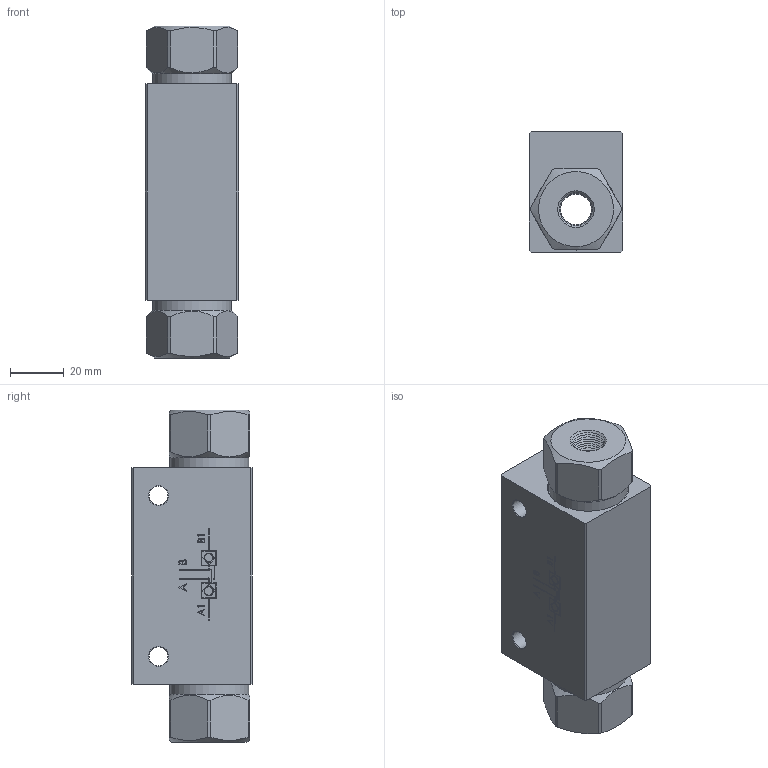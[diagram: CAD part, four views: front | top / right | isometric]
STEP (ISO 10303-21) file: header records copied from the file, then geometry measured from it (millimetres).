
FILE_DESCRIPTION (( 'STEP AP214' ), '1' );
FILE_NAME ('2257-8-14.STEP', '2015-04-11T07:19:41', ( 'cperuzzotti' ), ( 'Hewlett-Packard Company' ), 'SwSTEP 2.0', 'SolidWorks 2014', '' );
FILE_SCHEMA (( 'AUTOMOTIVE_DESIGN' ));
Length unit declared in the file: millimetre
Products named in the file (1): 2257-8-14
Bounding box: 35 x 45 x 124 mm (x, y, z)
Surface area: 23404.9 mm2 (no closed solid volume)
Topology: 0 solids, 40 shells, 309 faces, 1151 edges, 812 vertices
Faces by surface type: plane 181, bspline 50, cone 48, cylinder 30
Full cylindrical faces by diameter (mm): 3.08 x2, 7 x2, 19 x2, 29.5 x2, 30.5 x2
Entity records: 18855 total; most frequent: CARTESIAN_POINT 6593, ORIENTED_EDGE 1631, DIRECTION 1587, EDGE_CURVE 1079, VERTEX_POINT 798, VECTOR 727, LINE 727, AXIS2_PLACEMENT_3D 430
